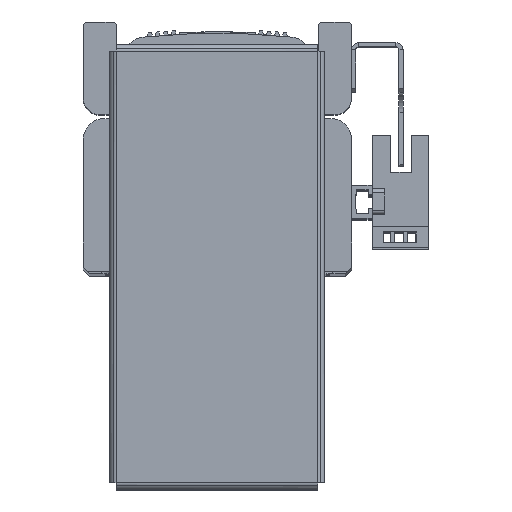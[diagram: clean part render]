
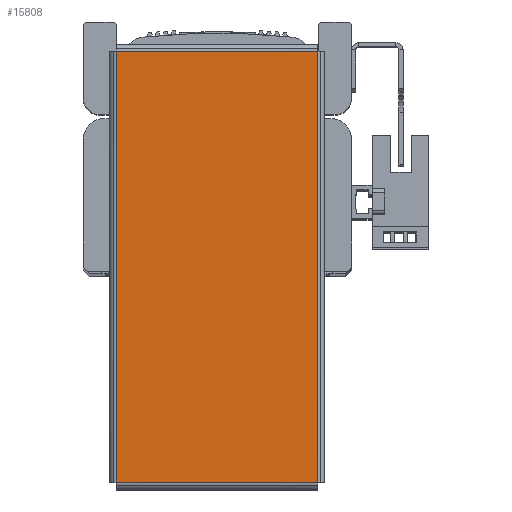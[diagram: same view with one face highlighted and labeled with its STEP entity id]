
A CAD part, top view. The second image highlights one B-rep face of the part: STEP entity #15808.
In plain terms, the highlighted planar face has unit normal (0, 0, 1) as drawn and (0, 0, -1) by its records, which use the part's own axes.
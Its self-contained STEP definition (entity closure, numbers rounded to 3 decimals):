
#2168 = FACE_OUTER_BOUND ( 'NONE', #24696, .T. ) ;
#14689 = AXIS2_PLACEMENT_3D ( 'NONE', #32363, #32339, #32390 ) ;
#15808 = ADVANCED_FACE ( 'NONE', ( #2168 ), #32331, .F. ) ;
#17224 = CARTESIAN_POINT ( 'NONE',  ( 52.263, -24.363, -1. ) ) ;
#17234 = CARTESIAN_POINT ( 'NONE',  ( -52.263, 24.363, -1. ) ) ;
#17239 = CARTESIAN_POINT ( 'NONE',  ( 52.263, 24.363, -1. ) ) ;
#17256 = CARTESIAN_POINT ( 'NONE',  ( -52.263, -24.363, -1. ) ) ;
#24696 = EDGE_LOOP ( 'NONE', ( #30074, #30117, #30110, #30093 ) ) ;
#25441 = VERTEX_POINT ( 'NONE', #17256 ) ;
#25467 = VERTEX_POINT ( 'NONE', #17234 ) ;
#25472 = VERTEX_POINT ( 'NONE', #17224 ) ;
#25487 = VERTEX_POINT ( 'NONE', #17239 ) ;
#28768 = CARTESIAN_POINT ( 'NONE',  ( -52.263, -24.393, -1. ) ) ;
#28795 = CARTESIAN_POINT ( 'NONE',  ( -52.293, 24.363, -1. ) ) ;
#28797 = DIRECTION ( 'NONE',  ( 1., 0., 0. ) ) ;
#28810 = DIRECTION ( 'NONE',  ( 0., 1., 0. ) ) ;
#28833 = DIRECTION ( 'NONE',  ( 0., -1., 0. ) ) ;
#28851 = CARTESIAN_POINT ( 'NONE',  ( 52.263, 24.393, -1. ) ) ;
#28872 = CARTESIAN_POINT ( 'NONE',  ( 52.293, -24.363, -1. ) ) ;
#28887 = DIRECTION ( 'NONE',  ( -1., 0., 0. ) ) ;
#30074 = ORIENTED_EDGE ( 'NONE', *, *, #34762, .T. ) ;
#30093 = ORIENTED_EDGE ( 'NONE', *, *, #34741, .T. ) ;
#30110 = ORIENTED_EDGE ( 'NONE', *, *, #34734, .T. ) ;
#30117 = ORIENTED_EDGE ( 'NONE', *, *, #34760, .T. ) ;
#32331 = PLANE ( 'NONE',  #14689 ) ;
#32339 = DIRECTION ( 'NONE',  ( 0., 0., 1. ) ) ;
#32363 = CARTESIAN_POINT ( 'NONE',  ( 0., 0., -1. ) ) ;
#32390 = DIRECTION ( 'NONE',  ( 1., 0., 0. ) ) ;
#34734 = EDGE_CURVE ( 'NONE', #25441, #25467, #38419, .T. ) ;
#34741 = EDGE_CURVE ( 'NONE', #25467, #25487, #38433, .T. ) ;
#34760 = EDGE_CURVE ( 'NONE', #25472, #25441, #38504, .T. ) ;
#34762 = EDGE_CURVE ( 'NONE', #25487, #25472, #38443, .T. ) ;
#38379 = VECTOR ( 'NONE', #28797, 1000. ) ;
#38403 = VECTOR ( 'NONE', #28810, 1000. ) ;
#38419 = LINE ( 'NONE', #28768, #38403 ) ;
#38433 = LINE ( 'NONE', #28795, #38379 ) ;
#38443 = LINE ( 'NONE', #28851, #38453 ) ;
#38453 = VECTOR ( 'NONE', #28833, 1000. ) ;
#38493 = VECTOR ( 'NONE', #28887, 1000. ) ;
#38504 = LINE ( 'NONE', #28872, #38493 ) ;
